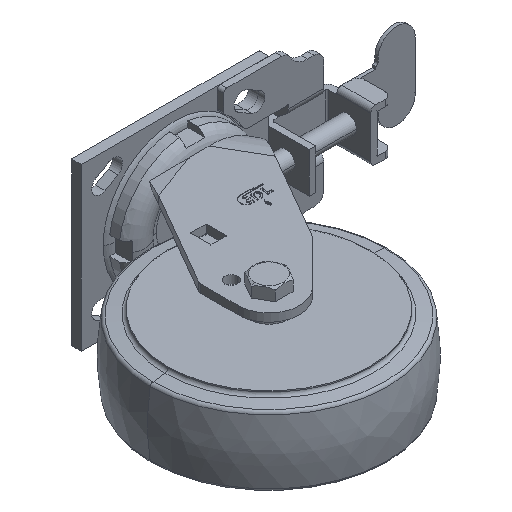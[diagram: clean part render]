
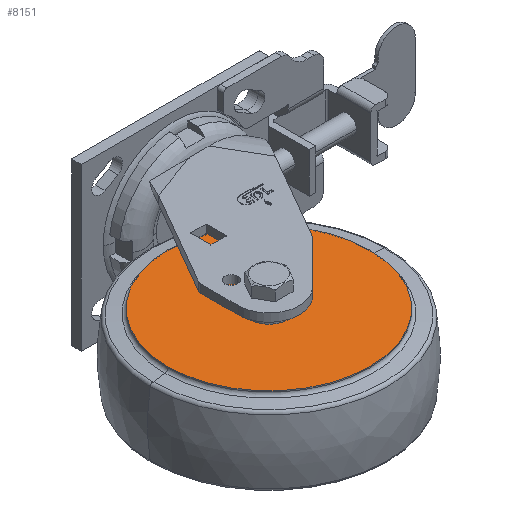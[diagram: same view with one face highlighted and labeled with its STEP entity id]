
A CAD part, isometric view. The second image highlights one B-rep face of the part: STEP entity #8151.
In plain terms, the highlighted planar face has unit normal (0, 0, 1) as drawn and (-1, 0, 0) by its records, which use the part's own axes.
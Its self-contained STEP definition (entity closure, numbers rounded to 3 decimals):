
#7686=CARTESIAN_POINT('',(-25.,0.,0.));
#7687=DIRECTION('',(-1.,0.,0.));
#7688=DIRECTION('',(0.,1.,0.));
#7689=AXIS2_PLACEMENT_3D('',#7686,#7687,#7688);
#7691=CARTESIAN_POINT('',(-25.,0.,0.));
#7692=DIRECTION('',(1.,0.,0.));
#7693=DIRECTION('',(0.,1.,0.));
#7694=AXIS2_PLACEMENT_3D('',#7691,#7692,#7693);
#7696=CARTESIAN_POINT('',(-25.,0.,0.));
#7697=DIRECTION('',(1.,0.,0.));
#7698=DIRECTION('',(0.,1.,0.));
#7699=AXIS2_PLACEMENT_3D('',#7696,#7697,#7698);
#7709=CARTESIAN_POINT('',(-25.,0.,0.));
#7710=DIRECTION('',(-1.,0.,0.));
#7711=DIRECTION('',(0.,1.,0.));
#7712=AXIS2_PLACEMENT_3D('',#7709,#7710,#7711);
#7840=CARTESIAN_POINT('',(-25.,62.5,0.));
#7841=VERTEX_POINT('',#7840);
#7842=CARTESIAN_POINT('',(-25.,12.,0.));
#7844=VERTEX_POINT('',#7842);
#7872=CARTESIAN_POINT('',(-25.,-62.5,0.));
#7873=VERTEX_POINT('',#7872);
#7874=CARTESIAN_POINT('',(-25.,-12.,0.));
#7876=VERTEX_POINT('',#7874);
#8136=CARTESIAN_POINT('',(-25.,0.,0.));
#8137=DIRECTION('',(1.,0.,0.));
#8138=DIRECTION('',(0.,-1.,0.));
#8139=AXIS2_PLACEMENT_3D('',#8136,#8137,#8138);
#8140=PLANE('',#8139);
#8141=ORIENTED_EDGE('',*,*,#8129,.F.);
#8142=ORIENTED_EDGE('',*,*,#8118,.T.);
#8143=EDGE_LOOP('',(#8141,#8142));
#8144=FACE_OUTER_BOUND('',#8143,.F.);
#8146=ORIENTED_EDGE('',*,*,#8145,.F.);
#8148=ORIENTED_EDGE('',*,*,#8147,.T.);
#8149=EDGE_LOOP('',(#8146,#8148));
#8150=FACE_BOUND('',#8149,.F.);
#7690=CIRCLE('',#7689,62.5);
#7695=CIRCLE('',#7694,62.5);
#7700=CIRCLE('',#7699,12.);
#7713=CIRCLE('',#7712,12.);
#8118=EDGE_CURVE('',#7841,#7873,#7695,.T.);
#8129=EDGE_CURVE('',#7841,#7873,#7690,.T.);
#8145=EDGE_CURVE('',#7844,#7876,#7700,.T.);
#8147=EDGE_CURVE('',#7844,#7876,#7713,.T.);
#8151=ADVANCED_FACE('',(#8144,#8150),#8140,.F.);
